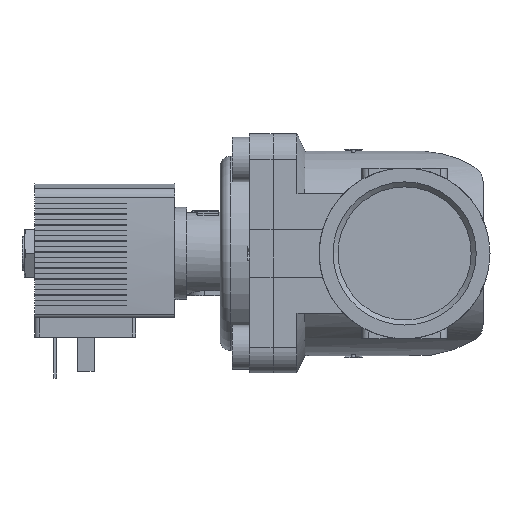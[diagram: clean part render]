
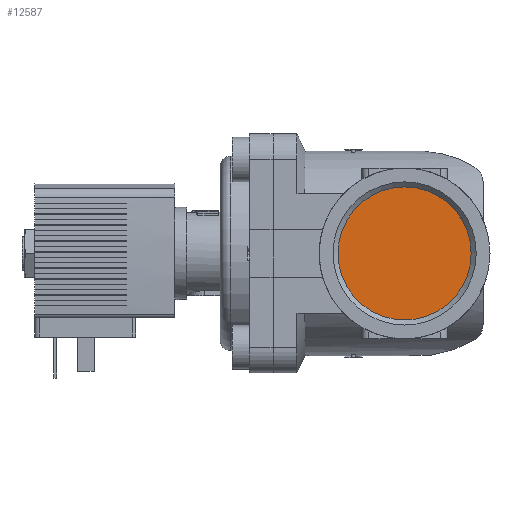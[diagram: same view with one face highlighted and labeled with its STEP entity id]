
A CAD part, left-side view. The second image highlights one B-rep face of the part: STEP entity #12587.
In plain terms, the highlighted planar face has unit normal (-1, 0, 0).
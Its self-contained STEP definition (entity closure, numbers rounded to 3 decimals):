
#3602=ORIENTED_EDGE('',*,*,#5995,.F.);
#5995=EDGE_CURVE('',#7289,#7289,#8028,.T.);
#7289=VERTEX_POINT('',#18064);
#8028=CIRCLE('',#13335,19.476);
#8413=EDGE_LOOP('',(#3602));
#9001=FACE_BOUND('',#8413,.T.);
#9483=PLANE('',#13336);
#12587=ADVANCED_FACE('',(#9001),#9483,.T.);
#13335=AXIS2_PLACEMENT_3D('',#18063,#14957,#14958);
#13336=AXIS2_PLACEMENT_3D('',#18065,#14959,#14960);
#14957=DIRECTION('',(1.,0.,0.));
#14958=DIRECTION('',(0.,0.,-1.));
#14959=DIRECTION('',(-1.,0.,0.));
#14960=DIRECTION('',(0.,0.,1.));
#18063=CARTESIAN_POINT('',(-26.5,0.,0.));
#18064=CARTESIAN_POINT('',(-26.5,0.,-19.476));
#18065=CARTESIAN_POINT('',(-26.5,19.476,0.));
